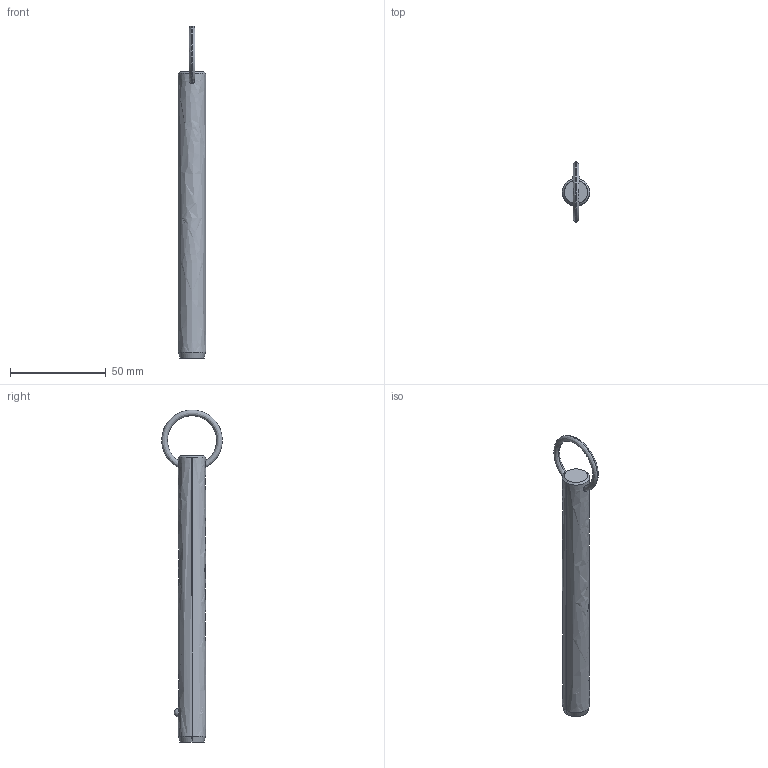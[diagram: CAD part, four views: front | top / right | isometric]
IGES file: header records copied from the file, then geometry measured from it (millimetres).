
Start section: SolidWorks IGES file using analytic representation for surfaces
Global section: file name: C:\Users\liam_\OneDrive\Documents\WORK\Work for WixRoyd\Job Files\J-00019 - Matt Davis CAD Checking\04. CAD Drawings\automotion20190605\P1250.2_v2\P1250.2_v2_20190729_IGES\P1250.056-490.igs; native system: SolidWorks 2017; preprocessor: SolidWorks 2017; author: liam_; date: 190729.232420; units: millimetre
Bounding box: 14.2 x 31.7 x 173.6 mm (x, y, z)
Surface area: 7648.5 mm2 (no closed solid volume)
Topology: 0 solids, 0 shells, 12 faces, 285 edges, 283 vertices
Faces by surface type: revolution 8, bspline 4
